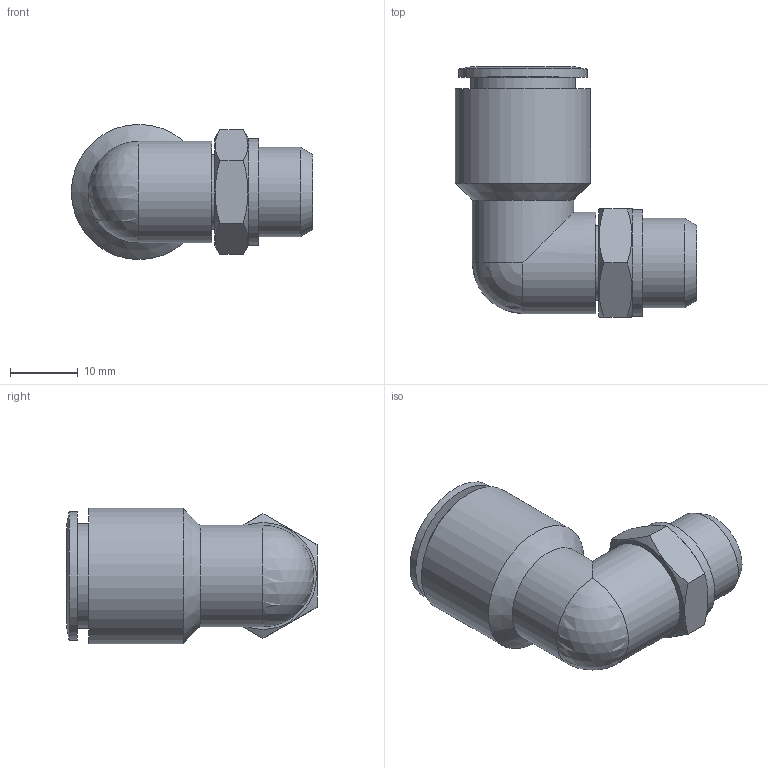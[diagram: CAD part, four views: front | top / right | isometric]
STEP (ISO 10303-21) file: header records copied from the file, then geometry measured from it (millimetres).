
FILE_DESCRIPTION((''),'2;1');
FILE_NAME('C:\Documents and Settings\rivolro1\Documenti\copia di Raccordi\PLASTICA\T22XXXX\T221214.stp','2007-11-02T14:27:51',('Rivolro1'),(''),'Autodesk Inventor 2008','Autodesk Inventor 2008','');
FILE_SCHEMA(('AUTOMOTIVE_DESIGN { 1 0 10303 214 1 1 1 1 }'));
Length unit declared in the file: millimetre
Products named in the file (1): T221214
Bounding box: 35.7 x 37 x 20 mm (x, y, z)
Volume: 7833.1 mm3; surface area: 5473 mm2
Topology: 1 solids, 1 shells, 37 faces, 84 edges, 51 vertices
Faces by surface type: plane 14, cylinder 12, cone 6, bspline 4, sphere 1
Full cylindrical faces by diameter (mm): 6 x1, 10.3 x1, 11 x1, 11.2 x1, 13.2 x1, 15 x2, 15.5 x1, 15.8 x1, 19 x1, 20 x1
Entity records: 1072 total; most frequent: CARTESIAN_POINT 313, DIRECTION 142, ORIENTED_EDGE 112, AXIS2_PLACEMENT_3D 66, EDGE_LOOP 63, EDGE_CURVE 56, VERTEX_POINT 45, FACE_OUTER_BOUND 37
